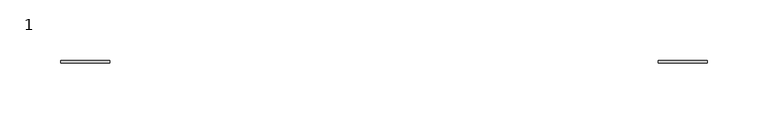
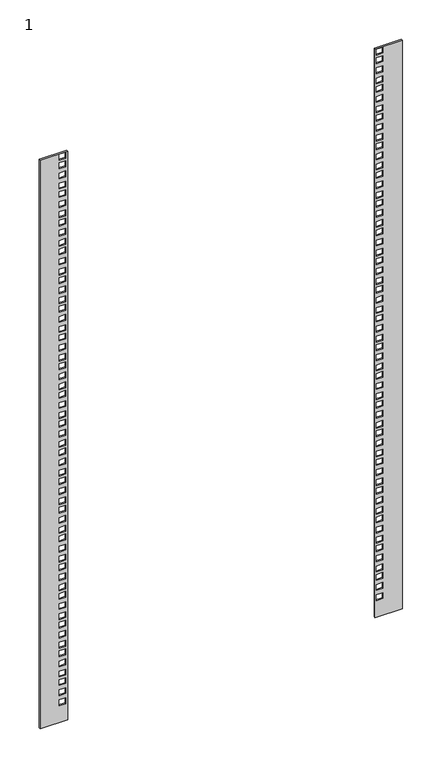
"""IFC4 building model written with IfcOpenShell, lengths in millimetres: proxy geometry, 1 : 18U 600мм стеклянная дверь."""

from ifc_helpers import new_model, si_unit, frame, origin, place, context, project, spatial, polyline, outline, extrude, source, transform, mapped, element, save


def proxy_1_0866ba5f(model_context):
    return source(origin(), model_context, "Body", "SweptSolid", [
        extrude(outline(polyline([(900.4675, 265.3), (900.4675, 225.3), (20.4675, 225.3), (20.4675, 265.3), (900.4675, 265.3)]), holes=[polyline([(55.0175, 227.55), (55.0175, 237.05), (46.0675, 237.05), (46.0675, 227.55), (55.0175, 227.55)]), polyline([(70.6675, 227.55), (70.6675, 237.05), (61.7175, 237.05), (61.7175, 227.55), (70.6675, 227.55)]), polyline([(86.3175, 227.55), (86.3175, 237.05), (77.3675, 237.05), (77.3675, 227.55), (86.3175, 227.55)]), polyline([(99.4675, 237.05), (90.5175, 237.05), (90.5175, 227.55), (99.4675, 227.55), (99.4675, 237.05)]), polyline([(115.1175, 237.05), (106.1675, 237.05), (106.1675, 227.55), (115.1175, 227.55), (115.1175, 237.05)]), polyline([(130.7675, 237.05), (121.8175, 237.05), (121.8175, 227.55), (130.7675, 227.55), (130.7675, 237.05)]), polyline([(143.9175, 237.05), (134.9675, 237.05), (134.9675, 227.55), (143.9175, 227.55), (143.9175, 237.05)]), polyline([(159.5675, 237.05), (150.6175, 237.05), (150.6175, 227.55), (159.5675, 227.55), (159.5675, 237.05)]), polyline([(175.2175, 237.05), (166.2675, 237.05), (166.2675, 227.55), (175.2175, 227.55), (175.2175, 237.05)]), polyline([(188.3675, 237.05), (179.4175, 237.05), (179.4175, 227.55), (188.3675, 227.55), (188.3675, 237.05)]), polyline([(204.0175, 237.05), (195.0675, 237.05), (195.0675, 227.55), (204.0175, 227.55), (204.0175, 237.05)]), polyline([(219.6675, 237.05), (210.7175, 237.05), (210.7175, 227.55), (219.6675, 227.55), (219.6675, 237.05)]), polyline([(232.8175, 237.05), (223.8675, 237.05), (223.8675, 227.55), (232.8175, 227.55), (232.8175, 237.05)]), polyline([(248.4675, 237.05), (239.5175, 237.05), (239.5175, 227.55), (248.4675, 227.55), (248.4675, 237.05)]), polyline([(264.1175, 237.05), (255.1675, 237.05), (255.1675, 227.55), (264.1175, 227.55), (264.1175, 237.05)]), polyline([(277.2675, 237.05), (268.3175, 237.05), (268.3175, 227.55), (277.2675, 227.55), (277.2675, 237.05)]), polyline([(292.9175, 237.05), (283.9675, 237.05), (283.9675, 227.55), (292.9175, 227.55), (292.9175, 237.05)]), polyline([(308.5675, 237.05), (299.6175, 237.05), (299.6175, 227.55), (308.5675, 227.55), (308.5675, 237.05)]), polyline([(321.7175, 237.05), (312.7675, 237.05), (312.7675, 227.55), (321.7175, 227.55), (321.7175, 237.05)]), polyline([(337.3675, 237.05), (328.4175, 237.05), (328.4175, 227.55), (337.3675, 227.55), (337.3675, 237.05)]), polyline([(353.0175, 237.05), (344.0675, 237.05), (344.0675, 227.55), (353.0175, 227.55), (353.0175, 237.05)]), polyline([(366.1675, 237.05), (357.2175, 237.05), (357.2175, 227.55), (366.1675, 227.55), (366.1675, 237.05)]), polyline([(381.8175, 237.05), (372.8675, 237.05), (372.8675, 227.55), (381.8175, 227.55), (381.8175, 237.05)]), polyline([(397.4675, 237.05), (388.5175, 237.05), (388.5175, 227.55), (397.4675, 227.55), (397.4675, 237.05)]), polyline([(410.6175, 237.05), (401.6675, 237.05), (401.6675, 227.55), (410.6175, 227.55), (410.6175, 237.05)]), polyline([(426.2675, 237.05), (417.3175, 237.05), (417.3175, 227.55), (426.2675, 227.55), (426.2675, 237.05)]), polyline([(441.9175, 237.05), (432.9675, 237.05), (432.9675, 227.55), (441.9175, 227.55), (441.9175, 237.05)]), polyline([(455.0675, 237.05), (446.1175, 237.05), (446.1175, 227.55), (455.0675, 227.55), (455.0675, 237.05)]), polyline([(470.7175, 237.05), (461.7675, 237.05), (461.7675, 227.55), (470.7175, 227.55), (470.7175, 237.05)]), polyline([(486.3675, 237.05), (477.4175, 237.05), (477.4175, 227.55), (486.3675, 227.55), (486.3675, 237.05)]), polyline([(499.5175, 237.05), (490.5675, 237.05), (490.5675, 227.55), (499.5175, 227.55), (499.5175, 237.05)]), polyline([(515.1675, 237.05), (506.2175, 237.05), (506.2175, 227.55), (515.1675, 227.55), (515.1675, 237.05)]), polyline([(530.8175, 237.05), (521.8675, 237.05), (521.8675, 227.55), (530.8175, 227.55), (530.8175, 237.05)]), polyline([(543.9675, 237.05), (535.0175, 237.05), (535.0175, 227.55), (543.9675, 227.55), (543.9675, 237.05)]), polyline([(559.6175, 237.05), (550.6675, 237.05), (550.6675, 227.55), (559.6175, 227.55), (559.6175, 237.05)]), polyline([(575.2675, 237.05), (566.3175, 237.05), (566.3175, 227.55), (575.2675, 227.55), (575.2675, 237.05)]), polyline([(588.4175, 237.05), (579.4675, 237.05), (579.4675, 227.55), (588.4175, 227.55), (588.4175, 237.05)]), polyline([(604.0675, 237.05), (595.1175, 237.05), (595.1175, 227.55), (604.0675, 227.55), (604.0675, 237.05)]), polyline([(619.7175, 237.05), (610.7675, 237.05), (610.7675, 227.55), (619.7175, 227.55), (619.7175, 237.05)]), polyline([(632.8675, 237.05), (623.9175, 237.05), (623.9175, 227.55), (632.8675, 227.55), (632.8675, 237.05)]), polyline([(648.5175, 237.05), (639.5675, 237.05), (639.5675, 227.55), (648.5175, 227.55), (648.5175, 237.05)]), polyline([(664.1675, 237.05), (655.2175, 237.05), (655.2175, 227.55), (664.1675, 227.55), (664.1675, 237.05)]), polyline([(677.3175, 237.05), (668.3675, 237.05), (668.3675, 227.55), (677.3175, 227.55), (677.3175, 237.05)]), polyline([(692.9675, 237.05), (684.0175, 237.05), (684.0175, 227.55), (692.9675, 227.55), (692.9675, 237.05)]), polyline([(708.6175, 237.05), (699.6675, 237.05), (699.6675, 227.55), (708.6175, 227.55), (708.6175, 237.05)]), polyline([(721.7675, 237.05), (712.8175, 237.05), (712.8175, 227.55), (721.7675, 227.55), (721.7675, 237.05)]), polyline([(737.4175, 237.05), (728.4675, 237.05), (728.4675, 227.55), (737.4175, 227.55), (737.4175, 237.05)]), polyline([(753.0675, 237.05), (744.1175, 237.05), (744.1175, 227.55), (753.0675, 227.55), (753.0675, 237.05)]), polyline([(766.2175, 237.05), (757.2675, 237.05), (757.2675, 227.55), (766.2175, 227.55), (766.2175, 237.05)]), polyline([(781.8675, 237.05), (772.9175, 237.05), (772.9175, 227.55), (781.8675, 227.55), (781.8675, 237.05)]), polyline([(797.5175, 237.05), (788.5675, 237.05), (788.5675, 227.55), (797.5175, 227.55), (797.5175, 237.05)]), polyline([(810.6675, 237.05), (801.7175, 237.05), (801.7175, 227.55), (810.6675, 227.55), (810.6675, 237.05)]), polyline([(826.3175, 237.05), (817.3675, 237.05), (817.3675, 227.55), (826.3175, 227.55), (826.3175, 237.05)]), polyline([(841.9675, 237.05), (833.0175, 237.05), (833.0175, 227.55), (841.9675, 227.55), (841.9675, 237.05)]), polyline([(855.1175, 237.05), (846.1675, 237.05), (846.1675, 227.55), (855.1175, 227.55), (855.1175, 237.05)]), polyline([(870.7675, 237.05), (861.8175, 237.05), (861.8175, 227.55), (870.7675, 227.55), (870.7675, 237.05)]), polyline([(886.4175, 237.05), (877.4675, 237.05), (877.4675, 227.55), (886.4175, 227.55), (886.4175, 237.05)]), polyline([(899.5675, 237.05), (890.6175, 237.05), (890.6175, 227.55), (899.5675, 227.55), (899.5675, 237.05)])]), frame((0.0, -254.6777479, 0.0), z_axis=(0.0, 1.0, 0.0), x_axis=(0.0, 0.0, 1.0)), (0.0, 0.0, 1.0), 2.0),
        extrude(outline(polyline([(900.4675, -225.7), (900.4675, -265.7), (20.4675, -265.7), (20.4675, -225.7), (900.4675, -225.7)]), holes=[polyline([(55.0175, -237.45), (55.0175, -227.95), (46.0675, -227.95), (46.0675, -237.45), (55.0175, -237.45)]), polyline([(70.6675, -237.45), (70.6675, -227.95), (61.7175, -227.95), (61.7175, -237.45), (70.6675, -237.45)]), polyline([(86.3175, -237.45), (86.3175, -227.95), (77.3675, -227.95), (77.3675, -237.45), (86.3175, -237.45)]), polyline([(90.5175, -237.45), (99.4675, -237.45), (99.4675, -227.95), (90.5175, -227.95), (90.5175, -237.45)]), polyline([(106.1675, -237.45), (115.1175, -237.45), (115.1175, -227.95), (106.1675, -227.95), (106.1675, -237.45)]), polyline([(121.8175, -237.45), (130.7675, -237.45), (130.7675, -227.95), (121.8175, -227.95), (121.8175, -237.45)]), polyline([(134.9675, -237.45), (143.9175, -237.45), (143.9175, -227.95), (134.9675, -227.95), (134.9675, -237.45)]), polyline([(150.6175, -237.45), (159.5675, -237.45), (159.5675, -227.95), (150.6175, -227.95), (150.6175, -237.45)]), polyline([(166.2675, -237.45), (175.2175, -237.45), (175.2175, -227.95), (166.2675, -227.95), (166.2675, -237.45)]), polyline([(179.4175, -237.45), (188.3675, -237.45), (188.3675, -227.95), (179.4175, -227.95), (179.4175, -237.45)]), polyline([(195.0675, -237.45), (204.0175, -237.45), (204.0175, -227.95), (195.0675, -227.95), (195.0675, -237.45)]), polyline([(210.7175, -237.45), (219.6675, -237.45), (219.6675, -227.95), (210.7175, -227.95), (210.7175, -237.45)]), polyline([(223.8675, -237.45), (232.8175, -237.45), (232.8175, -227.95), (223.8675, -227.95), (223.8675, -237.45)]), polyline([(239.5175, -237.45), (248.4675, -237.45), (248.4675, -227.95), (239.5175, -227.95), (239.5175, -237.45)]), polyline([(255.1675, -237.45), (264.1175, -237.45), (264.1175, -227.95), (255.1675, -227.95), (255.1675, -237.45)]), polyline([(268.3175, -237.45), (277.2675, -237.45), (277.2675, -227.95), (268.3175, -227.95), (268.3175, -237.45)]), polyline([(283.9675, -237.45), (292.9175, -237.45), (292.9175, -227.95), (283.9675, -227.95), (283.9675, -237.45)]), polyline([(299.6175, -237.45), (308.5675, -237.45), (308.5675, -227.95), (299.6175, -227.95), (299.6175, -237.45)]), polyline([(312.7675, -237.45), (321.7175, -237.45), (321.7175, -227.95), (312.7675, -227.95), (312.7675, -237.45)]), polyline([(328.4175, -237.45), (337.3675, -237.45), (337.3675, -227.95), (328.4175, -227.95), (328.4175, -237.45)]), polyline([(344.0675, -237.45), (353.0175, -237.45), (353.0175, -227.95), (344.0675, -227.95), (344.0675, -237.45)]), polyline([(357.2175, -237.45), (366.1675, -237.45), (366.1675, -227.95), (357.2175, -227.95), (357.2175, -237.45)]), polyline([(372.8675, -237.45), (381.8175, -237.45), (381.8175, -227.95), (372.8675, -227.95), (372.8675, -237.45)]), polyline([(388.5175, -237.45), (397.4675, -237.45), (397.4675, -227.95), (388.5175, -227.95), (388.5175, -237.45)]), polyline([(401.6675, -237.45), (410.6175, -237.45), (410.6175, -227.95), (401.6675, -227.95), (401.6675, -237.45)]), polyline([(417.3175, -237.45), (426.2675, -237.45), (426.2675, -227.95), (417.3175, -227.95), (417.3175, -237.45)]), polyline([(432.9675, -237.45), (441.9175, -237.45), (441.9175, -227.95), (432.9675, -227.95), (432.9675, -237.45)]), polyline([(446.1175, -237.45), (455.0675, -237.45), (455.0675, -227.95), (446.1175, -227.95), (446.1175, -237.45)]), polyline([(461.7675, -237.45), (470.7175, -237.45), (470.7175, -227.95), (461.7675, -227.95), (461.7675, -237.45)]), polyline([(477.4175, -237.45), (486.3675, -237.45), (486.3675, -227.95), (477.4175, -227.95), (477.4175, -237.45)]), polyline([(490.5675, -237.45), (499.5175, -237.45), (499.5175, -227.95), (490.5675, -227.95), (490.5675, -237.45)]), polyline([(506.2175, -237.45), (515.1675, -237.45), (515.1675, -227.95), (506.2175, -227.95), (506.2175, -237.45)]), polyline([(521.8675, -237.45), (530.8175, -237.45), (530.8175, -227.95), (521.8675, -227.95), (521.8675, -237.45)]), polyline([(535.0175, -237.45), (543.9675, -237.45), (543.9675, -227.95), (535.0175, -227.95), (535.0175, -237.45)]), polyline([(550.6675, -237.45), (559.6175, -237.45), (559.6175, -227.95), (550.6675, -227.95), (550.6675, -237.45)]), polyline([(566.3175, -237.45), (575.2675, -237.45), (575.2675, -227.95), (566.3175, -227.95), (566.3175, -237.45)]), polyline([(579.4675, -237.45), (588.4175, -237.45), (588.4175, -227.95), (579.4675, -227.95), (579.4675, -237.45)]), polyline([(595.1175, -237.45), (604.0675, -237.45), (604.0675, -227.95), (595.1175, -227.95), (595.1175, -237.45)]), polyline([(610.7675, -237.45), (619.7175, -237.45), (619.7175, -227.95), (610.7675, -227.95), (610.7675, -237.45)]), polyline([(623.9175, -237.45), (632.8675, -237.45), (632.8675, -227.95), (623.9175, -227.95), (623.9175, -237.45)]), polyline([(639.5675, -237.45), (648.5175, -237.45), (648.5175, -227.95), (639.5675, -227.95), (639.5675, -237.45)]), polyline([(655.2175, -237.45), (664.1675, -237.45), (664.1675, -227.95), (655.2175, -227.95), (655.2175, -237.45)]), polyline([(668.3675, -237.45), (677.3175, -237.45), (677.3175, -227.95), (668.3675, -227.95), (668.3675, -237.45)]), polyline([(684.0175, -237.45), (692.9675, -237.45), (692.9675, -227.95), (684.0175, -227.95), (684.0175, -237.45)]), polyline([(699.6675, -237.45), (708.6175, -237.45), (708.6175, -227.95), (699.6675, -227.95), (699.6675, -237.45)]), polyline([(712.8175, -237.45), (721.7675, -237.45), (721.7675, -227.95), (712.8175, -227.95), (712.8175, -237.45)]), polyline([(728.4675, -237.45), (737.4175, -237.45), (737.4175, -227.95), (728.4675, -227.95), (728.4675, -237.45)]), polyline([(744.1175, -237.45), (753.0675, -237.45), (753.0675, -227.95), (744.1175, -227.95), (744.1175, -237.45)]), polyline([(757.2675, -237.45), (766.2175, -237.45), (766.2175, -227.95), (757.2675, -227.95), (757.2675, -237.45)]), polyline([(772.9175, -237.45), (781.8675, -237.45), (781.8675, -227.95), (772.9175, -227.95), (772.9175, -237.45)]), polyline([(788.5675, -237.45), (797.5175, -237.45), (797.5175, -227.95), (788.5675, -227.95), (788.5675, -237.45)]), polyline([(801.7175, -237.45), (810.6675, -237.45), (810.6675, -227.95), (801.7175, -227.95), (801.7175, -237.45)]), polyline([(817.3675, -237.45), (826.3175, -237.45), (826.3175, -227.95), (817.3675, -227.95), (817.3675, -237.45)]), polyline([(833.0175, -237.45), (841.9675, -237.45), (841.9675, -227.95), (833.0175, -227.95), (833.0175, -237.45)]), polyline([(846.1675, -237.45), (855.1175, -237.45), (855.1175, -227.95), (846.1675, -227.95), (846.1675, -237.45)]), polyline([(861.8175, -237.45), (870.7675, -237.45), (870.7675, -227.95), (861.8175, -227.95), (861.8175, -237.45)]), polyline([(877.4675, -237.45), (886.4175, -237.45), (886.4175, -227.95), (877.4675, -227.95), (877.4675, -237.45)]), polyline([(890.6175, -237.45), (899.5675, -237.45), (899.5675, -227.95), (890.6175, -227.95), (890.6175, -237.45)])]), frame((0.0, -254.6777479, 0.0), z_axis=(0.0, 1.0, 0.0), x_axis=(0.0, 0.0, 1.0)), (0.0, 0.0, 1.0), 2.0),
    ])


if __name__ == "__main__":
    model = new_model("IFC4")
    model_context = context("Model", 3, world=origin())
    ifc_project = project(units=[si_unit("LENGTHUNIT", "METRE", prefix="MILLI")], contexts=[model_context])
    site = spatial("IfcSite", under=ifc_project)
    building = spatial("IfcBuilding", under=site)
    placement = place(None, origin())
    proxy_1_shape = proxy_1_0866ba5f(model_context)
    element("IfcBuildingElementProxy", 1, Name="1 : 18U 600мм стеклянная дверь", ObjectType="1 : 18U 600мм стеклянная дверь", at=placement, inside=building, context=model_context, shape_type="MappedRepresentation", body=[
        mapped(proxy_1_shape, transform((0.0, 0.0, 0.0), x_axis=(1.0, 0.0, 0.0), y_axis=(0.0, 1.0, 0.0), z_axis=(0.0, 0.0, 1.0))),
    ])
    save(model, "model.ifc")
